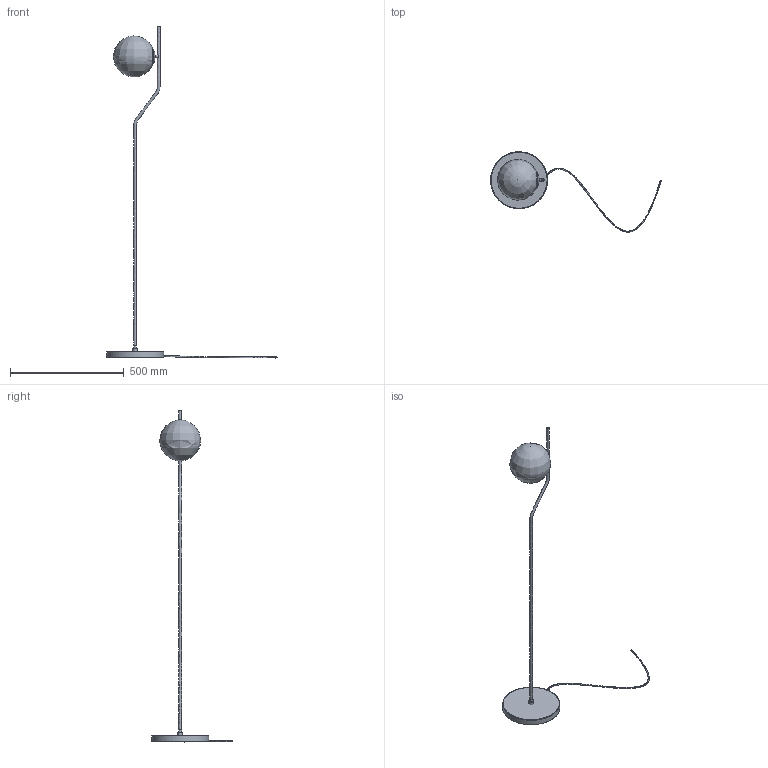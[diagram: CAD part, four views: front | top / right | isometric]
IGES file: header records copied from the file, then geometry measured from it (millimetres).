
Global section: file name: C:\Users\EQUIPO\Desktop\COLECCIONES ACB MODELADAS 3D OK\MAUI\maui-8163-pie (IGES).igs; native system: Rhinoceros ( Oct  8 2013 ); preprocessor: Trout Lake IGES 012 Oct  8 2013; date: 190207.114236; units: millimetre
Bounding box: 749.89 x 353.18 x 1457.83 mm (x, y, z)
Surface area: 329719.1 mm2 (no closed solid volume)
Topology: 0 solids, 0 shells, 154 faces, 764 edges, 632 vertices
Faces by surface type: bspline 154
